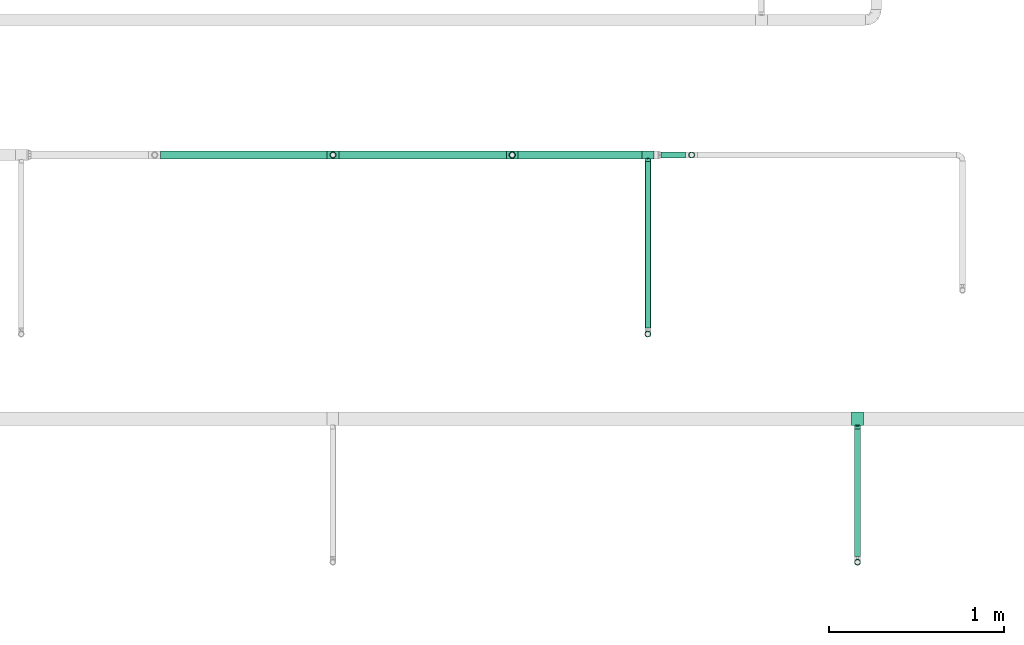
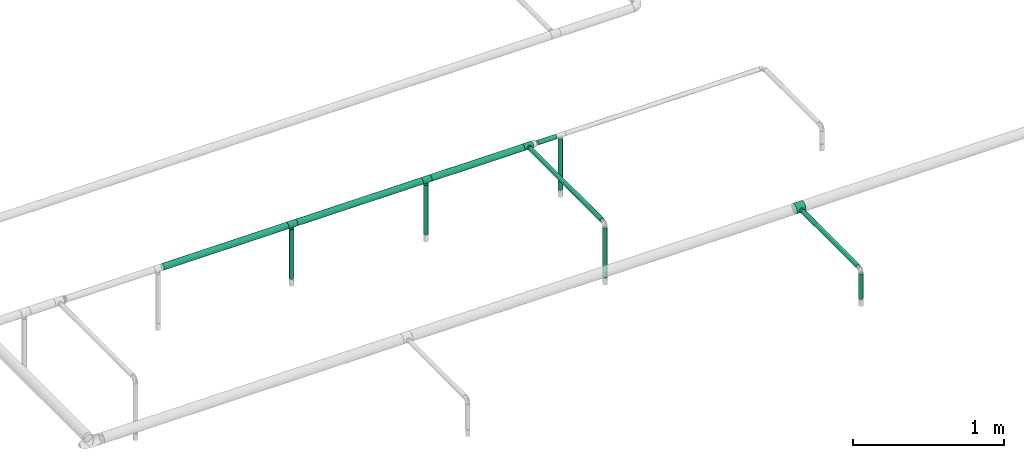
# One storey, part 5 of 45: 11 flow segments, 4 flow fittings.
"""IFC2X3 building model written with IfcOpenShell, lengths in millimetres."""

import ifcopenshell
import ifcopenshell.guid

model = None  # the IFC model being written
_history = None  # IfcOwnerHistory: only IFC2X3 demands one
_inside = {}  # id of a spatial element -> (the spatial element, [elements in it])
_under = {}  # id of a project, library or spatial element -> (it, [spatial elements below it])
_declared = {}  # id of a project -> (the project, [libraries it declares])
_typed = {}  # id of a type object -> (the type object, [elements of that type])
_made_of = {}  # id of a material, layer set ... -> (it, [elements and type objects made of it])


def new_model(schema):
    """Start an empty IFC model of exactly this schema.

    Asked for "IFC4X3", IfcOpenShell would pick the latest addendum, in which some entities
    have other attributes; the version numbers below select the first issue.
    IFC2X3 requires an IfcOwnerHistory on every rooted entity: one is made here for all.
    """
    global model, _history
    if schema == "IFC4X3":
        model = ifcopenshell.file(schema_version=(4, 3, 0, 0))
    else:
        model = ifcopenshell.file(schema=schema)
    _inside.clear()
    _under.clear()
    _declared.clear()
    _typed.clear()
    _made_of.clear()
    _history = None
    if model.schema == "IFC2X3":
        org = make("IfcOrganization", Name="unknown")
        user = make(
            "IfcPersonAndOrganization",
            ThePerson=make("IfcPerson", FamilyName="unknown"),
            TheOrganization=org,
        )
        app = make(
            "IfcApplication",
            ApplicationDeveloper=org,
            Version="unknown",
            ApplicationFullName="unknown",
            ApplicationIdentifier="unknown",
        )
        _history = make(
            "IfcOwnerHistory",
            OwningUser=user,
            OwningApplication=app,
            ChangeAction="ADDED",
            CreationDate=0,
        )
    return model


def make(cls, **values):
    """One entity of the class cls with the attributes given. An attribute that is None is left unset."""
    return model.create_entity(
        cls, **{name: value for name, value in values.items() if value is not None}
    )


def entity(cls, *values):
    """Any entity or typed value of the class cls, its attributes in the order of the schema. None: left unset."""
    e = model.create_entity(cls)
    for i, value in enumerate(values):
        if value is not None:
            e[i] = value
    return e


def rooted(cls, **values):
    """An entity with a GlobalId (a new one), such as an element, a storey or a relation."""
    return make(cls, GlobalId=ifcopenshell.guid.new(), OwnerHistory=_history, **values)


def si_unit(unit_type, name, prefix=None):
    """IfcSIUnit, for example si_unit("LENGTHUNIT", "METRE", prefix="MILLI")."""
    return make("IfcSIUnit", UnitType=unit_type, Prefix=prefix, Name=name)


def converted_unit(unit_type, name, factor, base, dimensions=None, offset=None):
    """IfcConversionBasedUnit, such as the inch: factor (a typed value) times the base unit."""
    return make(
        "IfcConversionBasedUnit"
        if offset is None
        else "IfcConversionBasedUnitWithOffset",
        ConversionOffset=offset,
        Dimensions=None
        if dimensions is None
        else entity("IfcDimensionalExponents", *dimensions),
        UnitType=unit_type,
        Name=name,
        ConversionFactor=make(
            "IfcMeasureWithUnit", ValueComponent=factor, UnitComponent=base
        ),
    )


def derived_unit(unit_type, elements):
    """IfcDerivedUnit: a product of units, each with its exponent."""
    return make(
        "IfcDerivedUnit",
        Elements=[
            make("IfcDerivedUnitElement", Unit=unit, Exponent=power)
            for unit, power in elements
        ],
        UnitType=unit_type,
    )


def assignment(units):
    """IfcUnitAssignment: the units of a project."""
    return None if units is None else make("IfcUnitAssignment", Units=units)


def point(xyz):
    """IfcCartesianPoint."""
    return None if xyz is None else make("IfcCartesianPoint", Coordinates=xyz)


def direction(xyz):
    """IfcDirection."""
    return None if xyz is None else make("IfcDirection", DirectionRatios=xyz)


def frame(location, z_axis=None, x_axis=None):
    """IfcAxis2Placement3D, a coordinate frame: its origin and axes. An axis left out is left unset."""
    return make(
        "IfcAxis2Placement3D",
        Location=point(location),
        Axis=direction(z_axis),
        RefDirection=direction(x_axis),
    )


def frame_2d(location, x_axis=None):
    """IfcAxis2Placement2D, a coordinate frame in the plane: its origin and x axis."""
    return make(
        "IfcAxis2Placement2D", Location=point(location), RefDirection=direction(x_axis)
    )


def origin_with_axes():
    """The frame at (0, 0, 0) with the z axis (0, 0, 1) and the x axis (1, 0, 0) written out."""
    return frame((0.0, 0.0, 0.0), z_axis=(0.0, 0.0, 1.0), x_axis=(1.0, 0.0, 0.0))


def origin_2d_with_axis():
    """The frame at (0, 0) in the plane with the x axis (1, 0) written out."""
    return frame_2d((0.0, 0.0), x_axis=(1.0, 0.0))


def place(relative_to, where):
    """IfcLocalPlacement: puts the frame where relative to a parent placement (None: the world)."""
    return make(
        "IfcLocalPlacement", PlacementRelTo=relative_to, RelativePlacement=where
    )


def context(
    kind, dimensions, precision=None, world=None, true_north=None, identifier=None
):
    """IfcGeometricRepresentationContext, for example the 3D "Model" context."""
    return make(
        "IfcGeometricRepresentationContext",
        ContextIdentifier=identifier,
        ContextType=kind,
        CoordinateSpaceDimension=dimensions,
        Precision=precision,
        WorldCoordinateSystem=world,
        TrueNorth=true_north,
    )


def subcontext(parent, identifier, kind, view, scale=None):
    """IfcGeometricRepresentationSubContext, for example "Body" below "Model"."""
    return make(
        "IfcGeometricRepresentationSubContext",
        ContextIdentifier=identifier,
        ContextType=kind,
        ParentContext=parent,
        TargetScale=scale,
        TargetView=view,
    )


def project(units=None, contexts=None):
    """IfcProject with its units and contexts."""
    return rooted(
        "IfcProject",
        Name="project",
        RepresentationContexts=contexts,
        UnitsInContext=assignment(units),
    )


def spatial(cls, under=None, at=None, **own):
    """A site, building, storey or space (cls), placed at a placement, below another one or the project."""
    s = rooted(cls, ObjectPlacement=at, **own)
    if under is not None:
        _under.setdefault(under.id(), (under, []))[1].append(s)
    return s


def profile(cls, at=None, kind="AREA", **sizes):
    """A parametric profile (cls). Its sizes go by their IFC names, for example OverallWidth=200.0."""
    return make(cls, ProfileType=kind, Position=at, **sizes)


def hollow_circle(**sizes):
    """IfcCircleHollowProfileDef."""
    return profile("IfcCircleHollowProfileDef", **sizes)


def extrude(swept, where, along, depth):
    """IfcExtrudedAreaSolid: the profile swept, set in the frame where, extruded along a direction by depth."""
    return make(
        "IfcExtrudedAreaSolid",
        SweptArea=swept,
        Position=where,
        ExtrudedDirection=direction(along),
        Depth=depth,
    )


def faces_of(points, faces, orient=None, outer=None):
    """IfcFace entities. A face is a list of loops; a loop is a list of indices into points, from 0.

    orient and outer hold one flag for each loop. By default every Orientation is true, the
    first loop of a face is its IfcFaceOuterBound and the others are IfcFaceBound.
    """
    made = []
    for i, loops in enumerate(faces):
        bounds = []
        for j, loop in enumerate(loops):
            is_outer = j == 0 if outer is None else outer[i][j]
            bounds.append(
                make(
                    "IfcFaceOuterBound" if is_outer else "IfcFaceBound",
                    Bound=make("IfcPolyLoop", Polygon=[points[k] for k in loop]),
                    Orientation=True if orient is None else orient[i][j],
                )
            )
        made.append(make("IfcFace", Bounds=bounds))
    return made


def open_shell(faces, orient=None, outer=None):
    """The faces of one IfcOpenShell. surface_model builds it on its shared points."""
    return ("IfcOpenShell", faces, orient, outer)


def surface_model(cls, points, shells):
    """IfcFaceBasedSurfaceModel or IfcShellBasedSurfaceModel (cls): surfaces that need not close."""
    shared = [point(p) for p in points]
    made = [make(c, CfsFaces=faces_of(shared, fs, o, b)) for c, fs, o, b in shells]
    if cls == "IfcFaceBasedSurfaceModel":
        return make(cls, FbsmFaces=made)
    return make(cls, SbsmBoundary=made)


def shape(context_of_items, identifier, shape_type, items):
    """IfcShapeRepresentation: the items that make up one representation, for example the "Body"."""
    return make(
        "IfcShapeRepresentation",
        ContextOfItems=context_of_items,
        RepresentationIdentifier=identifier,
        RepresentationType=shape_type,
        Items=items,
    )


def source(mapping_origin, context_of_items, identifier, shape_type, items):
    """IfcRepresentationMap: a shape defined once, which mapped items show again and again."""
    return make(
        "IfcRepresentationMap",
        MappingOrigin=mapping_origin,
        MappedRepresentation=shape(context_of_items, identifier, shape_type, items),
    )


def transform(
    local_origin,
    x_axis=None,
    y_axis=None,
    z_axis=None,
    scale=None,
    scale2=None,
    scale3=None,
    uniform=True,
):
    """IfcCartesianTransformationOperator3D, or its non-uniform kind. x_axis, y_axis, z_axis: its Axis1, 2, 3."""
    if uniform:
        return make(
            "IfcCartesianTransformationOperator3D",
            Axis1=direction(x_axis),
            Axis2=direction(y_axis),
            LocalOrigin=point(local_origin),
            Scale=scale,
            Axis3=direction(z_axis),
        )
    return make(
        "IfcCartesianTransformationOperator3DnonUniform",
        Axis1=direction(x_axis),
        Axis2=direction(y_axis),
        LocalOrigin=point(local_origin),
        Scale=scale,
        Axis3=direction(z_axis),
        Scale2=scale2,
        Scale3=scale3,
    )


def mapped(mapping_source, mapping_target):
    """IfcMappedItem: shows the shape of a source again, moved by a transform."""
    return make(
        "IfcMappedItem", MappingSource=mapping_source, MappingTarget=mapping_target
    )


def made_of(thing, what):
    """Note that an element or type object is made of a material, layer set ...; save() writes the relation."""
    if what is not None:
        _made_of.setdefault(what.id(), (what, []))[1].append(thing)
    return thing


def type_object(cls, material=None, **own):
    """A type object (cls), such as IfcWallType, which elements share."""
    return made_of(rooted(cls, **own), material)


def element(
    cls,
    number,
    at=None,
    inside=None,
    cuts=None,
    type_object=None,
    material=None,
    context=None,
    identifier="Body",
    shape_type=None,
    held_by="IfcProductDefinitionShape",
    body=None,
    shapes=None,
    **own,
):
    """One element of the class cls, such as IfcWall. Its Tag is "e" and its number.

    at: its placement. inside: the storey or other place that contains it. cuts: it is an
    opening in that element (IfcRelVoidsElement). A single representation is given by context,
    identifier, shape_type and body (its items); several are given by shapes. held_by: the class
    of the entity that holds the representations. save() writes the other relations.
    """
    e = rooted(cls, Tag="e%d" % number, ObjectPlacement=at, **own)
    if body is not None:
        shapes = [shape(context, identifier, shape_type, body)]
    if shapes is not None:
        e.Representation = make(held_by, Representations=shapes)
    if inside is not None:
        _inside.setdefault(inside.id(), (inside, []))[1].append(e)
    if cuts is not None:
        rooted(
            "IfcRelVoidsElement", RelatingBuildingElement=cuts, RelatedOpeningElement=e
        )
    if type_object is not None:
        _typed.setdefault(type_object.id(), (type_object, []))[1].append(e)
    return made_of(e, material)


def aggregate(whole, parts):
    """IfcRelAggregates: a whole, such as a stair, and the parts it consists of."""
    return rooted("IfcRelAggregates", RelatingObject=whole, RelatedObjects=parts)


def save(model, path):
    """Write the relations noted so far, then the file.

    IfcRelAggregates (storeys below a building ...), IfcRelContainedInSpatialStructure (elements
    in a storey), IfcRelDefinesByType, IfcRelAssociatesMaterial and IfcRelDeclares: one each for
    every whole, place, type object, material and project.
    """
    for whole, parts in _under.values():
        aggregate(whole, parts)
    for where, things in _inside.values():
        rooted(
            "IfcRelContainedInSpatialStructure",
            RelatedElements=things,
            RelatingStructure=where,
        )
    for kind, things in _typed.values():
        rooted("IfcRelDefinesByType", RelatedObjects=things, RelatingType=kind)
    for what, things in _made_of.values():
        rooted("IfcRelAssociatesMaterial", RelatedObjects=things, RelatingMaterial=what)
    for by, libraries in _declared.values():
        rooted("IfcRelDeclares", RelatingContext=by, RelatedDefinitions=libraries)
    model.write(path)


model = new_model("IFC2X3")

# Units and contexts
model_context = context("Model", 3, precision=0.01, world=frame((0.0, 4.29681676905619e-09, 0.0)), true_north=direction((4.01073788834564e-13, 1.0)))
plan_context = context("Plan", 3, precision=0.01, world=frame((0.0, 4.29681676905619e-09, 0.0)), true_north=direction((4.01073788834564e-13, 1.0)))
body_context = subcontext(model_context, "Body", "Model", "MODEL_VIEW")
ifc_project = project(units=[converted_unit("PLANEANGLEUNIT", "DEGREE", entity("IfcPositiveLengthMeasure", 0.0174532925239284), si_unit("PLANEANGLEUNIT", "RADIAN"), dimensions=[0, 0, 0, 0, 0, 0, 0]), si_unit("AREAUNIT", "SQUARE_METRE"), si_unit("LENGTHUNIT", "METRE", prefix="MILLI"), si_unit("MASSUNIT", "GRAM", prefix="KILO"), si_unit("POWERUNIT", "WATT"), si_unit("PRESSUREUNIT", "PASCAL", prefix="KILO"), si_unit("FORCEUNIT", "NEWTON", prefix="KILO"), si_unit("ELECTRICVOLTAGEUNIT", "VOLT"), si_unit("ELECTRICCURRENTUNIT", "AMPERE"), si_unit("THERMODYNAMICTEMPERATUREUNIT", "DEGREE_CELSIUS"), si_unit("TIMEUNIT", "SECOND"), si_unit("VOLUMEUNIT", "CUBIC_METRE"), derived_unit("LINEARVELOCITYUNIT", [(si_unit("LENGTHUNIT", "METRE"), 1), (si_unit("TIMEUNIT", "SECOND"), -1)]), derived_unit("VOLUMETRICFLOWRATEUNIT", [(si_unit("VOLUMEUNIT", "CUBIC_METRE"), 1), (si_unit("TIMEUNIT", "SECOND"), -1)]), derived_unit("THERMALTRANSMITTANCEUNIT", [(si_unit("POWERUNIT", "WATT"), 1), (si_unit("THERMODYNAMICTEMPERATUREUNIT", "KELVIN"), -1), (si_unit("AREAUNIT", "SQUARE_METRE"), -1)]), derived_unit("SOUNDPRESSUREUNIT", [(si_unit("PRESSUREUNIT", "PASCAL"), 1)])], contexts=[model_context, plan_context])

# Site, building, storey
site_placement = place(None, frame((0.0, -4.29681676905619e-09, 0.0), z_axis=(0.0, 0.0, 1.0), x_axis=(1.0, 0.0, 0.0)))
site = spatial("IfcSite", under=ifc_project, at=site_placement, CompositionType="ELEMENT")
building_placement = place(site_placement, frame((0.0, 4.29681676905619e-09, 0.0), z_axis=(0.0, 0.0, 1.0), x_axis=(1.0, 0.0, 0.0)))
building = spatial("IfcBuilding", under=site, at=building_placement, Name="mc-building", CompositionType="ELEMENT")
storey_placement = place(building_placement, frame((0.0, 0.0, 210200.0), z_axis=(0.0, 0.0, 1.0), x_axis=(1.0, 0.0, 0.0)))
storey = spatial("IfcBuildingStorey", under=building, at=storey_placement, Name="Nivå F - 0,7 m", CompositionType="ELEMENT", Elevation=210200.0)

# Flow fittings
pipe_fitting_type = type_object("IfcPipeFittingType", Name="magi_pipe_fe_tee_centric_90_001", PredefinedType="JUNCTION")
shared_shape_1 = source(origin_with_axes(), body_context, "Body", "SurfaceModel", [
    surface_model("IfcShellBasedSurfaceModel", [(-33.8, 9.86101, -36.80177), (-33.8, 0.0, -38.1), (-33.8, 36.80177, -9.86101), (-33.8, 19.05, -32.99557), (-33.8, 32.99557, -19.05), (-33.8, 26.94077, -26.94077), (-33.8, -38.1, 0.0), (-33.8, -19.05, -32.99557), (-33.8, -26.94077, -26.94077), (-33.8, -9.86101, -36.80177), (-33.8, -32.99557, -19.05), (-33.8, -36.80177, -9.86101), (-33.8, 38.1, 0.0), (-33.8, 32.99557, 19.05), (-33.8, 36.80177, 9.86101), (-33.8, -36.80177, 9.86101), (-33.8, 19.05, 32.99557), (-33.8, 26.94077, 26.94077), (-33.8, 9.86101, 36.80177), (-33.8, 0.0, 38.1), (-33.8, -26.94077, 26.94077), (-33.8, -32.99557, 19.05), (-33.8, -9.86101, 36.80177), (-33.8, -19.05, 32.99557), (33.8, 0.0, -38.1), (33.8, 9.86101, -36.80177), (33.8, 19.05, -32.99557), (33.8, 26.94077, -26.94077), (33.8, 32.99557, -19.05), (33.8, 36.80177, -9.86101), (33.8, -38.1, 0.0), (33.8, -9.86101, -36.80177), (33.8, -26.94077, -26.94077), (33.8, -19.05, -32.99557), (33.8, -32.99557, -19.05), (33.8, -36.80177, -9.86101), (33.8, 36.80177, 9.86101), (33.8, 32.99557, 19.05), (33.8, 19.05, 32.99557), (33.8, 0.0, 38.1), (33.8, 26.94077, 26.94077), (33.8, 9.86101, 36.80177), (33.8, -26.94077, 26.94077), (33.8, -32.99557, 19.05), (33.8, -36.80177, 9.86101), (33.8, -19.05, 32.99557), (33.8, -9.86101, 36.80177), (33.8, 38.1, 0.0), (33.8, -37.45089, 4.9305), (15.86072, -37.65053, 5.83504), (16.9, -38.1, 0.0), (12.92726, -36.51183, 10.88559), (2.96752, -34.27545, 16.63742), (33.8, -34.89867, 14.4555), (8.48894, -35.18611, 14.61328), (-8.4904, -35.18646, 14.61243), (-33.8, -34.89867, 14.4555), (-15.8612, -37.65073, 5.83372), (-33.8, -37.45089, 4.9305), (-16.9, -38.1, 0.0), (-12.9317, -36.51341, 10.88031), (-2.97221, -34.27585, 16.63658), (-33.8, -37.45089, -4.9305), (-15.8612, -37.65073, -5.83372), (15.86072, -37.65053, -5.83504), (33.8, -37.45089, -4.9305), (-12.9317, -36.51341, -10.88031), (-33.8, -34.89867, -14.4555), (-8.4904, -35.18646, -14.61243), (2.96752, -34.27545, -16.63742), (8.48894, -35.18611, -14.61328), (33.8, -34.89867, -14.4555), (12.92726, -36.51183, -10.88559), (-2.97221, -34.27585, -16.63658), (4.37404, -57.15, -16.32415), (-16.9, -57.15, 0.0), (0.0, -57.15, -16.9), (14.63583, -57.15, -8.45), (8.45, -57.15, -14.63583), (16.32415, -57.15, -4.37404), (11.9501, -57.15, -11.9501), (-11.9501, -57.15, -11.9501), (-8.45, -57.15, -14.63583), (-4.37404, -57.15, -16.32415), (-14.63583, -57.15, -8.45), (-16.32415, -57.15, -4.37404), (16.9, -57.15, 0.0), (8.45, -57.15, 14.63583), (16.32415, -57.15, 4.37404), (14.63583, -57.15, 8.45), (-8.45, -57.15, 14.63583), (11.9501, -57.15, 11.9501), (4.37404, -57.15, 16.32415), (-16.32415, -57.15, 4.37404), (-11.9501, -57.15, 11.9501), (-14.63583, -57.15, 8.45), (0.0, -57.15, 16.9), (-4.37404, -57.15, 16.32415), (-16.3806, -37.87537, 2.91686), (-5.7313, -34.73116, 15.62451), (-0.00235, -34.27565, 16.637), (5.72823, -34.73078, 15.62535), (16.38036, -37.87526, 2.91752), (16.38036, -37.87526, -2.91752), (5.72823, -34.73078, -15.62535), (-0.00235, -34.27565, -16.637), (-5.7313, -34.73116, -15.62451), (-16.3806, -37.87537, -2.91686)], [open_shell([[[0, 1, 2]], [[3, 0, 2]], [[2, 4, 5]], [[3, 2, 5]], [[6, 2, 1]], [[7, 8, 9]], [[8, 1, 9]], [[10, 11, 8]], [[6, 8, 11]], [[8, 6, 1]], [[6, 12, 2]], [[13, 14, 12]], [[15, 13, 6]], [[16, 13, 15]], [[17, 13, 16]], [[18, 16, 19]], [[20, 19, 21]], [[16, 15, 21]], [[22, 19, 23]], [[20, 23, 19]], [[21, 19, 16]], [[12, 6, 13]], [[24, 25, 26]], [[24, 26, 27]], [[27, 28, 29]], [[24, 27, 30]], [[30, 27, 29]], [[31, 32, 33]], [[31, 24, 32]], [[34, 30, 35]], [[30, 34, 32]], [[24, 30, 32]], [[29, 36, 30]], [[36, 37, 30]], [[30, 37, 38]], [[38, 39, 30]], [[38, 37, 40]], [[39, 38, 41]], [[30, 42, 43]], [[44, 30, 43]], [[45, 39, 46]], [[45, 42, 30]], [[30, 39, 45]], [[36, 29, 47]], [[48, 44, 49]], [[50, 30, 48]], [[44, 51, 49]], [[43, 42, 52]], [[50, 48, 49]], [[44, 53, 51]], [[52, 54, 43]], [[42, 20, 52]], [[54, 53, 43]], [[55, 21, 56]], [[57, 58, 59]], [[6, 59, 58]], [[57, 60, 15]], [[55, 61, 21]], [[51, 53, 54]], [[15, 60, 56]], [[21, 61, 20]], [[56, 60, 55]], [[61, 52, 20]], [[57, 15, 58]], [[42, 23, 20]], [[19, 46, 39]], [[22, 45, 46]], [[18, 39, 41]], [[37, 36, 14]], [[17, 38, 40]], [[13, 40, 37]], [[41, 38, 16]], [[12, 36, 47]], [[23, 45, 22]], [[22, 46, 19]], [[18, 19, 39]], [[41, 16, 18]], [[16, 38, 17]], [[13, 17, 40]], [[14, 13, 37]], [[36, 12, 14]], [[45, 23, 42]], [[12, 47, 29]], [[29, 28, 2]], [[59, 62, 63]], [[27, 4, 28]], [[9, 24, 31]], [[0, 26, 25]], [[64, 35, 65]], [[24, 1, 25]], [[31, 33, 7]], [[27, 26, 5]], [[66, 67, 68]], [[4, 2, 28]], [[12, 29, 2]], [[27, 5, 4]], [[3, 26, 0]], [[26, 3, 5]], [[0, 25, 1]], [[9, 1, 24]], [[31, 7, 9]], [[33, 8, 7]], [[32, 34, 69]], [[70, 34, 71]], [[70, 69, 34]], [[35, 72, 71]], [[32, 69, 8]], [[30, 50, 65]], [[64, 72, 35]], [[64, 65, 50]], [[72, 70, 71]], [[73, 68, 10]], [[10, 8, 73]], [[68, 67, 10]], [[73, 8, 69]], [[66, 63, 11]], [[63, 62, 11]], [[62, 59, 6]], [[11, 67, 66]], [[32, 8, 33]], [[74, 75, 76]], [[77, 74, 78]], [[77, 79, 74]], [[77, 78, 80]], [[75, 74, 79]], [[76, 81, 82]], [[82, 83, 76]], [[84, 75, 85]], [[81, 76, 84]], [[75, 84, 76]], [[79, 86, 75]], [[87, 86, 88]], [[87, 88, 89]], [[90, 75, 87]], [[87, 89, 91]], [[90, 87, 92]], [[93, 94, 95]], [[94, 93, 90]], [[90, 96, 97]], [[93, 75, 90]], [[92, 96, 90]], [[87, 75, 86]], [[93, 98, 75]], [[60, 95, 94]], [[93, 95, 57]], [[94, 90, 55]], [[98, 59, 75]], [[57, 95, 60]], [[97, 61, 99]], [[55, 60, 94]], [[96, 52, 100]], [[87, 101, 92]], [[99, 90, 97]], [[99, 55, 90]], [[93, 57, 98]], [[92, 52, 96]], [[49, 89, 88]], [[102, 86, 50]], [[102, 49, 88]], [[91, 89, 51]], [[96, 61, 97]], [[101, 52, 92]], [[87, 54, 101]], [[87, 91, 54]], [[54, 91, 51]], [[51, 89, 49]], [[86, 102, 88]], [[100, 61, 96]], [[79, 103, 86]], [[72, 77, 80]], [[79, 77, 64]], [[80, 78, 70]], [[103, 50, 86]], [[64, 77, 72]], [[74, 69, 104]], [[70, 72, 80]], [[76, 73, 105]], [[82, 106, 83]], [[107, 75, 59]], [[104, 78, 74]], [[104, 70, 78]], [[68, 82, 81]], [[79, 64, 103]], [[63, 84, 85]], [[107, 63, 85]], [[84, 66, 81]], [[76, 69, 74]], [[83, 106, 73]], [[73, 76, 83]], [[68, 106, 82]], [[68, 81, 66]], [[66, 84, 63]], [[75, 107, 85]], [[105, 69, 76]]])]),
])
flow_fitting_placement = place(storey_placement, frame((329513.2, 460120.00018, 2938.0), z_axis=(0.0, 0.0, -1.0), x_axis=(-1.0, 0.0, 0.0)))
element("IfcFlowFitting", 1, at=flow_fitting_placement, inside=storey, type_object=pipe_fitting_type, Name="magi_pipe_fe_tee_centric_90_001", context=body_context, shape_type="MappedRepresentation", body=[
    mapped(shared_shape_1, transform((0.0, 0.0, 0.0), scale=1.0)),
])
shared_shape_2 = source(origin_with_axes(), body_context, "Body", "SurfaceModel", [
    surface_model("IfcShellBasedSurfaceModel", [(-33.8, 0.0, -24.2), (-33.8, -6.26342, -23.37541), (-33.8, 6.26342, -23.37541), (-33.8, 12.1, -20.95781), (-33.8, 17.11198, -17.11198), (-33.8, 20.95781, -12.1), (-33.8, -23.37541, -6.26342), (-33.8, 23.37541, -6.26342), (-33.8, -17.11198, -17.11198), (-33.8, -20.95781, -12.1), (-33.8, -12.1, -20.95781), (-33.8, -24.2, 0.0), (-33.8, -23.37541, 6.26342), (-33.8, 20.95781, 12.1), (-33.8, 23.37541, 6.26342), (-33.8, 24.2, 0.0), (-33.8, 12.1, 20.95781), (-33.8, 17.11198, 17.11198), (-33.8, -17.11198, 17.11198), (-33.8, 6.26342, 23.37541), (-33.8, -20.95781, 12.1), (-33.8, -12.1, 20.95781), (-33.8, -6.26342, 23.37541), (-33.8, 0.0, 24.2), (33.8, 6.26342, -23.37541), (33.8, -6.26342, -23.37541), (33.8, 0.0, -24.2), (33.8, 17.11198, -17.11198), (33.8, 12.1, -20.95781), (33.8, -23.37541, -6.26342), (33.8, 20.95781, -12.1), (33.8, 23.37541, -6.26342), (33.8, -17.11198, -17.11198), (33.8, -12.1, -20.95781), (33.8, -20.95781, -12.1), (33.8, -24.2, 0.0), (33.8, 24.2, 0.0), (33.8, 23.37541, 6.26342), (33.8, 20.95781, 12.1), (33.8, -23.37541, 6.26342), (33.8, -17.11198, 17.11198), (33.8, 12.1, 20.95781), (33.8, 17.11198, 17.11198), (33.8, 6.26342, 23.37541), (33.8, -20.95781, 12.1), (33.8, -12.1, 20.95781), (33.8, 0.0, 24.2), (33.8, -6.26342, 23.37541), (15.81824, -23.45734, 5.94922), (16.9, -24.2, 0.0), (12.87025, -21.57947, 10.95293), (33.8, -19.0349, 14.60599), (8.52813, -19.30697, 14.59044), (3.03527, -17.5853, 16.6252), (-3.04044, -17.58619, 16.62425), (-8.52961, -19.30762, 14.58958), (-33.8, -19.0349, 14.60599), (-16.9, -24.2, 0.0), (-15.81885, -23.45775, 5.9476), (-12.87368, -21.58151, 10.9489), (3.03527, -17.5853, -16.6252), (33.8, -19.0349, -14.60599), (8.52813, -19.30697, -14.59044), (-8.52961, -19.30762, -14.58958), (-33.8, -19.0349, -14.60599), (12.87025, -21.57947, -10.95293), (-3.04044, -17.58619, -16.62425), (15.81824, -23.45734, -5.94922), (-12.87368, -21.58151, -10.9489), (-15.81885, -23.45775, -5.9476), (4.37404, -36.3, -16.32415), (-16.9, -36.3, 0.0), (0.0, -36.3, -16.9), (14.63583, -36.3, -8.45), (8.45, -36.3, -14.63583), (16.32415, -36.3, -4.37404), (11.9501, -36.3, -11.9501), (-11.9501, -36.3, -11.9501), (-8.45, -36.3, -14.63583), (-4.37404, -36.3, -16.32415), (-14.63583, -36.3, -8.45), (-16.32415, -36.3, -4.37404), (16.9, -36.3, 0.0), (8.45, -36.3, 14.63583), (16.32415, -36.3, 4.37404), (14.63583, -36.3, 8.45), (-8.45, -36.3, 14.63583), (11.9501, -36.3, 11.9501), (4.37404, -36.3, 16.32415), (-16.32415, -36.3, 4.37404), (-11.9501, -36.3, 11.9501), (-14.63583, -36.3, 8.45), (0.0, -36.3, 16.9), (-4.37404, -36.3, 16.32415), (-16.35943, -23.82888, 2.9738), (16.35912, -23.82867, 2.97461), (-0.00259, -17.58575, 16.62472), (16.35912, -23.82867, -2.97461), (-0.00259, -17.58575, -16.62472), (-16.35943, -23.82888, -2.9738)], [open_shell([[[0, 1, 2]], [[3, 2, 4]], [[5, 2, 6]], [[4, 2, 5]], [[7, 5, 6]], [[8, 9, 10]], [[1, 10, 9]], [[1, 9, 2]], [[9, 6, 2]], [[6, 11, 7]], [[11, 12, 7]], [[13, 14, 15]], [[13, 15, 12]], [[16, 17, 18]], [[12, 17, 13]], [[19, 16, 18]], [[20, 18, 12]], [[18, 17, 12]], [[21, 22, 18]], [[23, 18, 22]], [[18, 23, 19]], [[7, 12, 15]], [[24, 25, 26]], [[27, 24, 28]], [[29, 24, 30]], [[30, 24, 27]], [[29, 30, 31]], [[25, 32, 33]], [[32, 25, 34]], [[24, 34, 25]], [[24, 29, 34]], [[31, 35, 29]], [[31, 36, 35]], [[36, 37, 38]], [[39, 36, 38]], [[40, 38, 41]], [[41, 38, 42]], [[40, 41, 43]], [[39, 40, 44]], [[39, 38, 40]], [[45, 46, 47]], [[46, 45, 40]], [[43, 46, 40]], [[36, 39, 35]], [[35, 39, 48]], [[48, 49, 35]], [[39, 50, 48]], [[51, 40, 52]], [[52, 50, 44]], [[53, 52, 40]], [[54, 53, 21]], [[44, 50, 39]], [[55, 18, 56]], [[57, 58, 11]], [[12, 11, 58]], [[58, 59, 12]], [[55, 54, 18]], [[55, 20, 59]], [[20, 55, 56]], [[59, 20, 12]], [[18, 54, 21]], [[52, 44, 51]], [[53, 40, 45]], [[23, 47, 46]], [[22, 45, 47]], [[19, 46, 43]], [[38, 37, 14]], [[17, 41, 42]], [[13, 42, 38]], [[43, 41, 16]], [[15, 37, 36]], [[21, 45, 22]], [[22, 47, 23]], [[19, 23, 46]], [[43, 16, 19]], [[16, 41, 17]], [[13, 17, 42]], [[14, 13, 38]], [[37, 15, 14]], [[45, 21, 53]], [[5, 31, 30]], [[7, 36, 31]], [[4, 30, 27]], [[26, 25, 1]], [[2, 28, 24]], [[0, 24, 26]], [[27, 28, 3]], [[10, 25, 33]], [[15, 36, 7]], [[7, 31, 5]], [[4, 5, 30]], [[27, 3, 4]], [[3, 28, 2]], [[0, 2, 24]], [[1, 0, 26]], [[25, 10, 1]], [[33, 60, 10]], [[61, 34, 62]], [[63, 9, 64]], [[62, 60, 32]], [[34, 65, 62]], [[66, 10, 60]], [[29, 35, 67]], [[67, 65, 29]], [[49, 67, 35]], [[29, 65, 34]], [[66, 63, 8]], [[62, 32, 61]], [[64, 8, 63]], [[63, 68, 9]], [[8, 10, 66]], [[68, 69, 6]], [[69, 11, 6]], [[11, 69, 57]], [[68, 6, 9]], [[60, 33, 32]], [[70, 71, 72]], [[73, 70, 74]], [[73, 75, 70]], [[73, 74, 76]], [[71, 70, 75]], [[72, 77, 78]], [[78, 79, 72]], [[80, 71, 81]], [[77, 72, 80]], [[71, 80, 72]], [[75, 82, 71]], [[83, 82, 84]], [[83, 84, 85]], [[86, 71, 83]], [[83, 85, 87]], [[86, 83, 88]], [[89, 90, 91]], [[90, 89, 86]], [[86, 92, 93]], [[89, 71, 86]], [[88, 92, 86]], [[83, 71, 82]], [[89, 94, 71]], [[59, 91, 90]], [[89, 91, 58]], [[90, 86, 55]], [[89, 58, 94]], [[94, 57, 71]], [[58, 91, 59]], [[95, 48, 84]], [[55, 93, 54]], [[55, 59, 90]], [[92, 53, 96]], [[55, 86, 93]], [[53, 92, 88]], [[83, 52, 88]], [[87, 85, 50]], [[87, 52, 83]], [[48, 85, 84]], [[87, 50, 52]], [[52, 53, 88]], [[82, 95, 84]], [[48, 50, 85]], [[95, 82, 49]], [[92, 54, 93]], [[96, 54, 92]], [[75, 97, 82]], [[65, 73, 76]], [[75, 73, 67]], [[76, 74, 62]], [[97, 49, 82]], [[67, 73, 65]], [[62, 70, 60]], [[62, 65, 76]], [[72, 66, 98]], [[62, 74, 70]], [[99, 71, 57]], [[99, 69, 81]], [[75, 67, 97]], [[79, 66, 72]], [[69, 80, 81]], [[77, 80, 68]], [[72, 60, 70]], [[79, 63, 66]], [[63, 79, 78]], [[78, 77, 63]], [[63, 77, 68]], [[68, 80, 69]], [[71, 99, 81]], [[98, 60, 72]]])]),
])
for number, where, z_axis, x_axis, name in (
    (2, (326514.0, 461628.40208, 2938.0), (0.0, 1.0, 0.0), (-1.0, 0.0, 0.0), "magi_pipe_fe_tee_centric_90_001"),
    (3, (327539.0, 461628.40208, 2938.0), (0.0, 1.0, 0.0), (-1.0, 0.0, 0.0), "magi_pipe_fe_tee_centric_90_001"),
    (4, (328314.5, 461628.40208, 2938.0), (0.0, 0.0, -1.0), (-1.0, 0.0, 0.0), "magi_pipe_fe_tee_centric_90_001"),
):
    element("IfcFlowFitting", number, at=place(storey_placement, frame(where, z_axis=z_axis, x_axis=x_axis)), inside=storey, type_object=pipe_fitting_type, Name=name, context=body_context, shape_type="MappedRepresentation", body=[
        mapped(shared_shape_2, transform((0.0, 0.0, 0.0), scale=1.0)),
    ])

# Flow segments
pipe_segment_type = type_object("IfcPipeSegmentType", Name="Stålrør normaltykke", PredefinedType="RIGIDSEGMENT")
shared_shape_3 = source(origin_with_axes(), body_context, "Body", "SweptSolid", [
    extrude(hollow_circle(Radius=16.9, WallThickness=2.0, at=origin_2d_with_axis()), frame((0.0, 0.0, 0.0), z_axis=(1.0, 0.0, 0.0), x_axis=(0.0, 1.0, 0.0)), (0.0, 0.0, 1.0), 397.7),
])
for number, where, z_axis, x_axis in (
    (5, (326514.0, 461628.40208, 2901.70000000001), (0.0, 1.0, 0.0), (0.0, 0.0, -1.0)),
    (6, (327539.0, 461628.40208, 2901.70000000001), (0.0, 1.0, 0.0), (0.0, 0.0, -1.0)),
):
    element("IfcFlowSegment", number, at=place(storey_placement, frame(where, z_axis=z_axis, x_axis=x_axis)), inside=storey, type_object=pipe_segment_type, Name="Stålrør normaltykke", context=body_context, shape_type="MappedRepresentation", body=[
        mapped(shared_shape_3, transform((0.0, 0.0, 0.0), scale=1.0)),
    ])
shared_shape_4 = source(origin_with_axes(), body_context, "Body", "SweptSolid", [
    extrude(hollow_circle(Radius=24.1, WallThickness=2.0, at=origin_2d_with_axis()), frame((0.0, 0.0, 0.0), z_axis=(1.0, 0.0, 0.0), x_axis=(0.0, 1.0, 0.0)), (0.0, 0.0, 1.0), 951.9),
])
flow_segment_1_placement = place(storey_placement, frame((325528.3, 461628.40208, 2938.0), z_axis=(0.0, 0.0, 1.0), x_axis=(1.0, 0.0, 0.0)))
element("IfcFlowSegment", 7, at=flow_segment_1_placement, inside=storey, type_object=pipe_segment_type, Name="Stålrør normaltykke", context=body_context, shape_type="MappedRepresentation", body=[
    mapped(shared_shape_4, transform((0.0, 0.0, 0.0), scale=1.0)),
])
shared_shape_5 = source(origin_with_axes(), body_context, "Body", "SweptSolid", [
    extrude(hollow_circle(Radius=24.1, WallThickness=2.0, at=origin_2d_with_axis()), frame((0.0, 0.0, 0.0), z_axis=(1.0, 0.0, 0.0), x_axis=(0.0, 1.0, 0.0)), (0.0, 0.0, 1.0), 957.4),
])
flow_segment_2_placement = place(storey_placement, frame((326547.8, 461628.40208, 2938.0), z_axis=(0.0, 0.0, 1.0), x_axis=(1.0, 0.0, 0.0)))
element("IfcFlowSegment", 8, at=flow_segment_2_placement, inside=storey, type_object=pipe_segment_type, Name="Stålrør normaltykke", context=body_context, shape_type="MappedRepresentation", body=[
    mapped(shared_shape_5, transform((0.0, 0.0, 0.0), scale=1.0)),
])
shared_shape_6 = source(origin_with_axes(), body_context, "Body", "SweptSolid", [
    extrude(hollow_circle(Radius=16.9, WallThickness=2.0, at=origin_2d_with_axis()), frame((0.0, 0.0, 0.0), z_axis=(1.0, 0.0, 0.0), x_axis=(0.0, 1.0, 0.0)), (0.0, 0.0, 1.0), 408.7),
])
flow_segment_3_placement = place(storey_placement, frame((328564.5461, 461628.40208, 2912.64999999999), z_axis=(0.0, 1.0, 0.0), x_axis=(0.0, 0.0, -1.0)))
element("IfcFlowSegment", 9, at=flow_segment_3_placement, inside=storey, type_object=pipe_segment_type, Name="Stålrør normaltykke", context=body_context, shape_type="MappedRepresentation", body=[
    mapped(shared_shape_6, transform((0.0, 0.0, 0.0), scale=1.0)),
])
shared_shape_7 = source(origin_with_axes(), body_context, "Body", "SweptSolid", [
    extrude(hollow_circle(Radius=16.9, WallThickness=2.0, at=origin_2d_with_axis()), frame((0.0, 0.0, 0.0), z_axis=(1.0, 0.0, 0.0), x_axis=(0.0, 1.0, 0.0)), (0.0, 0.0, 1.0), 142.0),
])
flow_segment_4_placement = place(storey_placement, frame((328388.77326, 461628.40208, 2938.0), z_axis=(0.0, 0.0, 1.0), x_axis=(1.0, 0.0, 0.0)))
element("IfcFlowSegment", 10, at=flow_segment_4_placement, inside=storey, type_object=pipe_segment_type, Name="Stålrør normaltykke", context=body_context, shape_type="MappedRepresentation", body=[
    mapped(shared_shape_7, transform((0.0, 0.0, 0.0), scale=1.0)),
])
shared_shape_8 = source(origin_with_axes(), body_context, "Body", "SweptSolid", [
    extrude(hollow_circle(Radius=16.9, WallThickness=2.0, at=origin_2d_with_axis()), frame((0.0, 0.0, 0.0), z_axis=(1.0, 0.0, 0.0), x_axis=(0.0, 1.0, 0.0)), (0.0, 0.0, 1.0), 400.2),
])
flow_segment_5_placement = place(storey_placement, frame((328314.5, 460604.5, 2503.95199999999), z_axis=(1.0, 0.0, 0.0), x_axis=(0.0, 0.0, 1.0)))
element("IfcFlowSegment", 11, at=flow_segment_5_placement, inside=storey, type_object=pipe_segment_type, Name="Stålrør normaltykke", context=body_context, shape_type="MappedRepresentation", body=[
    mapped(shared_shape_8, transform((0.0, 0.0, 0.0), scale=1.0)),
])
shared_shape_9 = source(origin_with_axes(), body_context, "Body", "SweptSolid", [
    extrude(hollow_circle(Radius=16.9, WallThickness=2.0, at=origin_2d_with_axis()), frame((0.0, 0.0, 0.0), z_axis=(1.0, 0.0, 0.0), x_axis=(0.0, 1.0, 0.0)), (0.0, 0.0, 1.0), 953.8),
])
flow_segment_6_placement = place(storey_placement, frame((328314.5, 460638.3, 2938.0), z_axis=(0.0, 0.0, 1.0), x_axis=(0.0, 1.0, 0.0)))
element("IfcFlowSegment", 12, at=flow_segment_6_placement, inside=storey, type_object=pipe_segment_type, Name="Stålrør normaltykke", context=body_context, shape_type="MappedRepresentation", body=[
    mapped(shared_shape_9, transform((0.0, 0.0, 0.0), scale=1.0)),
])
shared_shape_10 = source(origin_with_axes(), body_context, "Body", "SweptSolid", [
    extrude(hollow_circle(Radius=24.1, WallThickness=2.0, at=origin_2d_with_axis()), frame((0.0, 0.0, 0.0), z_axis=(1.0, 0.0, 0.0), x_axis=(0.0, 1.0, 0.0)), (0.0, 0.0, 1.0), 707.9),
])
flow_segment_7_placement = place(storey_placement, frame((327572.8, 461628.40208, 2938.0), z_axis=(0.0, 0.0, 1.0), x_axis=(1.0, 0.0, 0.0)))
element("IfcFlowSegment", 13, at=flow_segment_7_placement, inside=storey, type_object=pipe_segment_type, Name="Stålrør normaltykke", context=body_context, shape_type="MappedRepresentation", body=[
    mapped(shared_shape_10, transform((0.0, 0.0, 0.0), scale=1.0)),
])
shared_shape_11 = source(origin_with_axes(), body_context, "Body", "SweptSolid", [
    extrude(hollow_circle(Radius=16.9, WallThickness=2.0, at=origin_2d_with_axis()), frame((0.0, 0.0, 0.0), z_axis=(1.0, 0.0, 0.0), x_axis=(0.0, 1.0, 0.0)), (0.0, 0.0, 1.0), 729.1),
])
flow_segment_8_placement = place(storey_placement, frame((329513.2, 459333.8, 2938.0), z_axis=(0.0, 0.0, 1.0), x_axis=(0.0, 1.0, 0.0)))
element("IfcFlowSegment", 14, at=flow_segment_8_placement, inside=storey, type_object=pipe_segment_type, Name="Stålrør normaltykke", context=body_context, shape_type="MappedRepresentation", body=[
    mapped(shared_shape_11, transform((0.0, 0.0, 0.0), scale=1.0)),
])
shared_shape_12 = source(origin_with_axes(), body_context, "Body", "SweptSolid", [
    extrude(hollow_circle(Radius=16.9, WallThickness=2.0, at=origin_2d_with_axis()), frame((0.0, 0.0, 0.0), z_axis=(1.0, 0.0, 0.0), x_axis=(0.0, 1.0, 0.0)), (0.0, 0.0, 1.0), 200.2),
])
flow_segment_9_placement = place(storey_placement, frame((329513.2, 459300.0, 2703.95199999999), z_axis=(0.0, 1.0, 0.0), x_axis=(0.0, 0.0, 1.0)))
element("IfcFlowSegment", 15, at=flow_segment_9_placement, inside=storey, type_object=pipe_segment_type, Name="Stålrør normaltykke", context=body_context, shape_type="MappedRepresentation", body=[
    mapped(shared_shape_12, transform((0.0, 0.0, 0.0), scale=1.0)),
])

save(model, "model.ifc")
